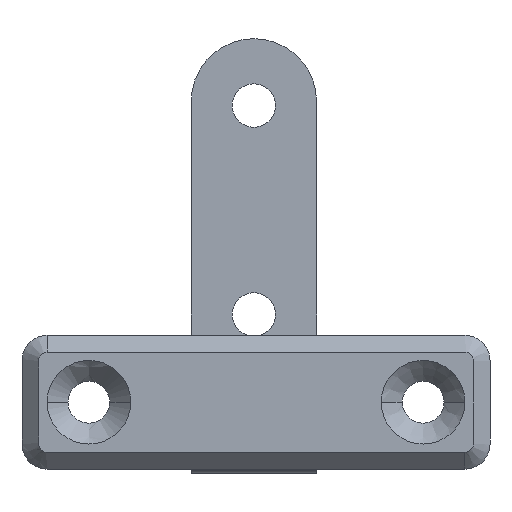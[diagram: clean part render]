
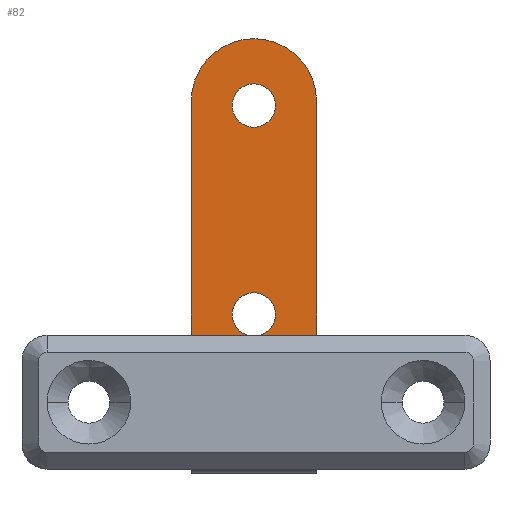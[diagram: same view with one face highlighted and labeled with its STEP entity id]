
A CAD part, left-side view. The second image highlights one B-rep face of the part: STEP entity #82.
In plain terms, the highlighted planar face has unit normal (-1, 0, 0).
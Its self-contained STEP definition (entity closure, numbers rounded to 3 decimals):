
#31=FACE_BOUND('',#613,.T.);
#32=FACE_BOUND('',#614,.T.);
#82=ADVANCED_FACE('',(#342,#31,#32),#4620,.T.);
#342=FACE_OUTER_BOUND('',#612,.T.);
#612=EDGE_LOOP('',(#1049,#1050,#1051,#1052));
#613=EDGE_LOOP('',(#1053,#1054));
#614=EDGE_LOOP('',(#1055,#1056));
#1049=ORIENTED_EDGE('',*,*,#2313,.T.);
#1050=ORIENTED_EDGE('',*,*,#2314,.T.);
#1051=ORIENTED_EDGE('',*,*,#2311,.F.);
#1052=ORIENTED_EDGE('',*,*,#2315,.T.);
#1053=ORIENTED_EDGE('',*,*,#2330,.T.);
#1054=ORIENTED_EDGE('',*,*,#2321,.T.);
#1055=ORIENTED_EDGE('',*,*,#2332,.T.);
#1056=ORIENTED_EDGE('',*,*,#2325,.T.);
#2311=EDGE_CURVE('',#4084,#4085,#3996,.T.);
#2313=EDGE_CURVE('',#4086,#4087,#3077,.T.);
#2314=EDGE_CURVE('',#4087,#4085,#3998,.T.);
#2315=EDGE_CURVE('',#4084,#4086,#3999,.T.);
#2321=EDGE_CURVE('',#4088,#4089,#3079,.T.);
#2325=EDGE_CURVE('',#4090,#4091,#3081,.T.);
#2330=EDGE_CURVE('',#4089,#4088,#3084,.T.);
#2332=EDGE_CURVE('',#4091,#4090,#3086,.T.);
#3077=TRIMMED_CURVE($,#3532,(#7318),(#7319),.T.,.CARTESIAN.);
#3079=TRIMMED_CURVE($,#3534,(#7336),(#7337),.T.,.CARTESIAN.);
#3081=TRIMMED_CURVE($,#3536,(#7346),(#7347),.T.,.CARTESIAN.);
#3084=TRIMMED_CURVE($,#3539,(#7359),(#7360),.T.,.CARTESIAN.);
#3086=TRIMMED_CURVE($,#3541,(#7365),(#7366),.T.,.CARTESIAN.);
#3532=CIRCLE('',#4875,7.5);
#3534=CIRCLE('',#4877,2.6);
#3536=CIRCLE('',#4879,2.6);
#3539=CIRCLE('',#4882,2.6);
#3541=CIRCLE('',#4884,2.6);
#3996=B_SPLINE_CURVE_WITH_KNOTS('',1,(#7313,#7314),.UNSPECIFIED.,.F.,.F.,
(2,2),(0.,15.),.UNSPECIFIED.);
#3998=B_SPLINE_CURVE_WITH_KNOTS('',1,(#7320,#7321),.UNSPECIFIED.,.F.,.F.,
(2,2),(0.,33.72),.UNSPECIFIED.);
#3999=B_SPLINE_CURVE_WITH_KNOTS('',1,(#7322,#7323),.UNSPECIFIED.,.F.,.F.,
(2,2),(0.,33.72),.UNSPECIFIED.);
#4084=VERTEX_POINT('',#7211);
#4085=VERTEX_POINT('',#7212);
#4086=VERTEX_POINT('',#7213);
#4087=VERTEX_POINT('',#7214);
#4088=VERTEX_POINT('',#7215);
#4089=VERTEX_POINT('',#7216);
#4090=VERTEX_POINT('',#7217);
#4091=VERTEX_POINT('',#7218);
#4620=PLANE('',#4854);
#4854=AXIS2_PLACEMENT_3D('',#7176,#5598,$);
#4875=AXIS2_PLACEMENT_3D($,#7317,#5631,#5632);
#4877=AXIS2_PLACEMENT_3D($,#7335,#5635,#5636);
#4879=AXIS2_PLACEMENT_3D($,#7345,#5639,#5640);
#4882=AXIS2_PLACEMENT_3D($,#7358,#5645,#5646);
#4884=AXIS2_PLACEMENT_3D($,#7364,#5649,#5650);
#5598=DIRECTION('',(-1.,0.,0.));
#5631=DIRECTION('',(-1.,0.,0.));
#5632=DIRECTION('',(0.,-1.,0.));
#5635=DIRECTION('',(1.,0.,0.));
#5636=DIRECTION('',(0.,1.,0.));
#5639=DIRECTION('',(1.,0.,0.));
#5640=DIRECTION('',(0.,1.,0.));
#5645=DIRECTION('',(1.,0.,0.));
#5646=DIRECTION('',(0.,-1.,0.));
#5649=DIRECTION('',(1.,0.,0.));
#5650=DIRECTION('',(0.,-1.,0.));
#7176=CARTESIAN_POINT('',(-450.387,16.512,-74.14));
#7211=CARTESIAN_POINT('',(-450.387,0.,-70.006));
#7212=CARTESIAN_POINT('',(-450.387,15.,-70.006));
#7213=CARTESIAN_POINT('',(-450.387,0.,-36.286));
#7214=CARTESIAN_POINT('',(-450.387,15.,-36.286));
#7215=CARTESIAN_POINT('',(-450.387,10.1,-36.786));
#7216=CARTESIAN_POINT('',(-450.387,4.9,-36.786));
#7217=CARTESIAN_POINT('',(-450.387,10.1,-61.786));
#7218=CARTESIAN_POINT('',(-450.387,4.9,-61.786));
#7313=CARTESIAN_POINT('',(-450.387,0.,-70.006));
#7314=CARTESIAN_POINT('',(-450.387,15.,-70.006));
#7317=CARTESIAN_POINT('',(-450.387,7.5,-36.286));
#7318=CARTESIAN_POINT('',(-450.387,0.,-36.286));
#7319=CARTESIAN_POINT('',(-450.387,15.,-36.286));
#7320=CARTESIAN_POINT('',(-450.387,15.,-36.286));
#7321=CARTESIAN_POINT('',(-450.387,15.,-70.006));
#7322=CARTESIAN_POINT('',(-450.387,0.,-70.006));
#7323=CARTESIAN_POINT('',(-450.387,0.,-36.286));
#7335=CARTESIAN_POINT('',(-450.387,7.5,-36.786));
#7336=CARTESIAN_POINT('',(-450.387,10.1,-36.786));
#7337=CARTESIAN_POINT('',(-450.387,4.9,-36.786));
#7345=CARTESIAN_POINT('',(-450.387,7.5,-61.786));
#7346=CARTESIAN_POINT('',(-450.387,10.1,-61.786));
#7347=CARTESIAN_POINT('',(-450.387,4.9,-61.786));
#7358=CARTESIAN_POINT('',(-450.387,7.5,-36.786));
#7359=CARTESIAN_POINT('',(-450.387,4.9,-36.786));
#7360=CARTESIAN_POINT('',(-450.387,10.1,-36.786));
#7364=CARTESIAN_POINT('',(-450.387,7.5,-61.786));
#7365=CARTESIAN_POINT('',(-450.387,4.9,-61.786));
#7366=CARTESIAN_POINT('',(-450.387,10.1,-61.786));
